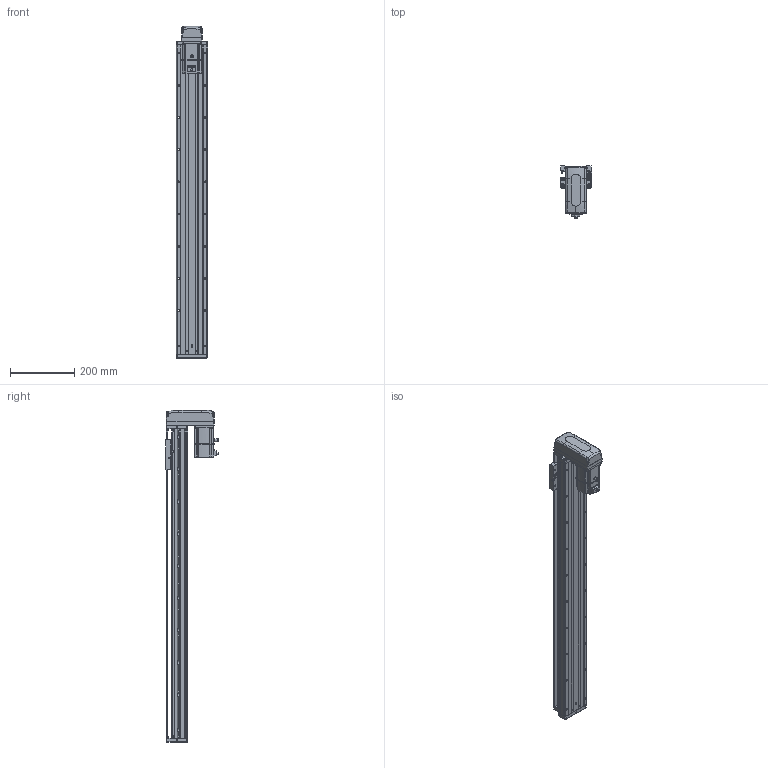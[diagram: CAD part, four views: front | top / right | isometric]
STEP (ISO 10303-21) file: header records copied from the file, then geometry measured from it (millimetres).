
FILE_DESCRIPTION (( 'STEP AP203' ), '1' );
FILE_NAME ('KTHA100-800-BM-M20-C4L.step', '2022-04-26T01:54:28', ( '微软用户' ), ( '微软中国' ), 'SwSTEP 2.0', 'SolidWorks 2020', '' );
FILE_SCHEMA (( 'CONFIG_CONTROL_DESIGN' ));
Length unit declared in the file: millimetre
Products named in the file (17): CTHA60-017; GBT70.1 M5℅16; KTHA100-001_960; CTHA60-016; KTHA100-002; GBT 70.3-M3℅6; KTHA100-004; _X2_4E0983F1_X0_200W_1; KTHA100-005; CTHA60-021; CTHA86-015-1_CTHA86-015-2; GB¨uT 70.2-M3¡Á5_M3¡Á6; GBT77-2000 M3×3; CTHA86-033; EE_SX911P_R; GBT 70.1-M3℅6; KTHA100-800-BM-M20-C4L
Assembly tree (57 placements, depth 2):
  KTHA100-800-BM-M20-C4L
    KTHA100-001_960
    KTHA100-002
    KTHA100-004
    KTHA100-005
    GB¨uT 70.2-M3¡Á5_M3¡Á6  x6
    EE_SX911P_R  x3
    CTHA60-017  x3
    CTHA60-021  x2
    GBT77-2000 M3×3  x6
    GBT 70.1-M3℅6  x10
    GBT70.1 M5℅16  x14
    CTHA60-016  x2
    GBT 70.3-M3℅6  x4
    _X2_4E0983F1_X0_200W_1
    CTHA86-015-1_CTHA86-015-2
    CTHA86-033
Bounding box: 98.82 x 163.2 x 1031 mm (x, y, z)
Volume: 4406233.1 mm3; surface area: 715286.9 mm2
Topology: 60 solids, 60 shells, 2477 faces, 5945 edges, 3688 vertices
Faces by surface type: plane 1268, cylinder 689, cone 313, torus 116, bspline 75, sphere 16
Entity records: 43240 total; most frequent: CARTESIAN_POINT 8672, DIRECTION 6712, ORIENTED_EDGE 6502, EDGE_CURVE 3251, AXIS2_PLACEMENT_3D 2336, VERTEX_POINT 2048, LINE 2040, VECTOR 2040
